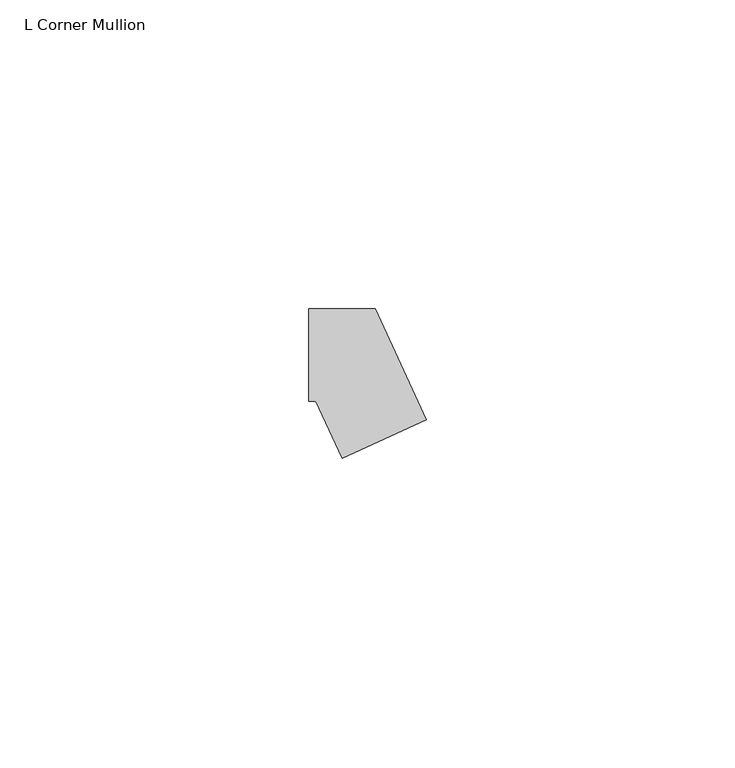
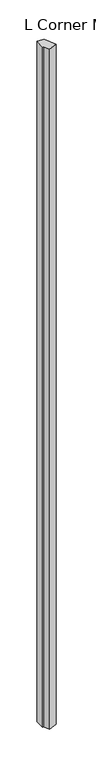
"""IFC4 building model written with IfcOpenShell, lengths in millimetres: member geometry, L Corner Mullion : ARQ_HERR_15X6mm."""

from ifc_helpers import new_model, si_unit, frame, origin, place, context, project, spatial, polyline, outline, extrude, source, transform, mapped, element, save


def l_corner_mullion_bdbcb013(model_context):
    return source(origin(), model_context, "Body", "SweptSolid", [
        extrude(outline(polyline([(-0.5775282, -16.7605627), (-4.8156946, -7.5), (-6.0, -7.5), (-6.0, 7.5), (4.8156946, 7.5), (13.0619332, -10.5183601), (-0.5775282, -16.7605627)])), frame((0.0, 0.0, -1110.8347839), z_axis=(0.0, 0.0, 1.0), x_axis=(1.0, 0.0, 0.0)), (0.0, 0.0, 1.0), 1110.8347839),
    ])


if __name__ == "__main__":
    model = new_model("IFC4")
    model_context = context("Model", 3, world=origin())
    ifc_project = project(units=[si_unit("LENGTHUNIT", "METRE", prefix="MILLI")], contexts=[model_context])
    site = spatial("IfcSite", under=ifc_project)
    building = spatial("IfcBuilding", under=site)
    placement = place(None, origin())
    l_corner_mullion_shape = l_corner_mullion_bdbcb013(model_context)
    element("IfcMember", 1, ObjectType="L Corner Mullion : ARQ_HERR_15X6mm", at=placement, inside=building, context=model_context, shape_type="MappedRepresentation", body=[
        mapped(l_corner_mullion_shape, transform((0.0, 0.0, 0.0), x_axis=(1.0, 0.0, 0.0), y_axis=(0.0, 1.0, 0.0), z_axis=(0.0, 0.0, 1.0))),
    ])
    save(model, "model.ifc")
